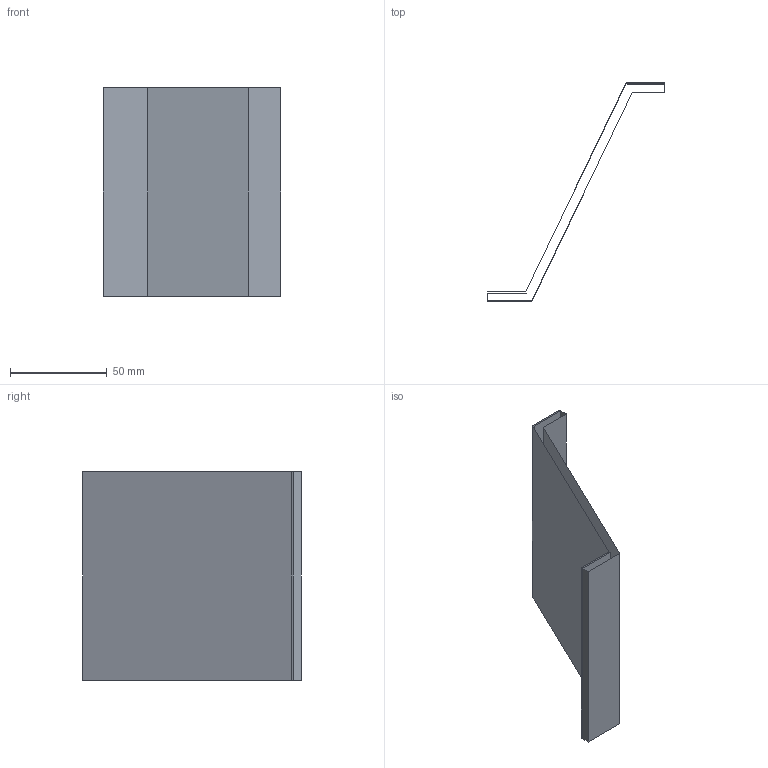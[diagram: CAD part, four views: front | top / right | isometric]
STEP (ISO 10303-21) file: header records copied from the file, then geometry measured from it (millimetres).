
FILE_DESCRIPTION(('CATIA V5 STEP Exchange'),'2;1');
FILE_NAME('C:\_Andres\UNIVERSIDAD\IQS\ASIGNATURAS\DAO\EXF\EXF-16172c\2inicio\dAndrea_Torrejon_Ej06_v8.stp','2017-03-05T21:01:23+00:00',('none'),('none'),'CATIA Version 5-6 Release 2014 SP1 HF18','CATIA V5 STEP AP203','none');
FILE_SCHEMA(('CONFIG_CONTROL_DESIGN'));
Length unit declared in the file: millimetre
Products named in the file (1): dAndrea_Torrejon_Ej06_v8
Bounding box: 92 x 113 x 108 mm (x, y, z)
Surface area: 39715.2 mm2 (no closed solid volume)
Topology: 0 solids, 2 shells, 10 faces, 42 edges, 36 vertices
Faces by surface type: plane 10
Entity records: 461 total; most frequent: CARTESIAN_POINT 100, DIRECTION 59, ORIENTED_EDGE 40, VECTOR 39, LINE 39, EDGE_CURVE 32, VERTEX_POINT 24, AXIS2_PLACEMENT_3D 11
